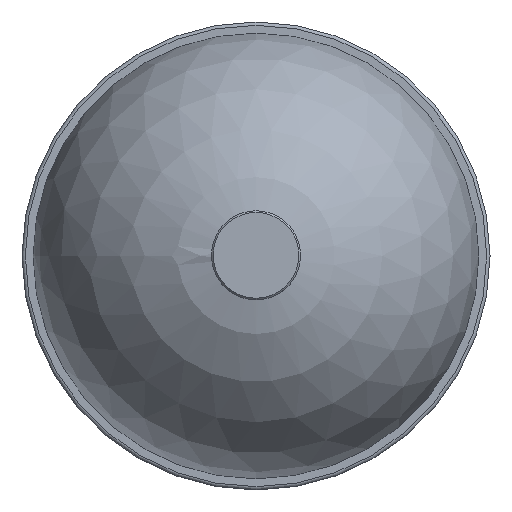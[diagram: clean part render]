
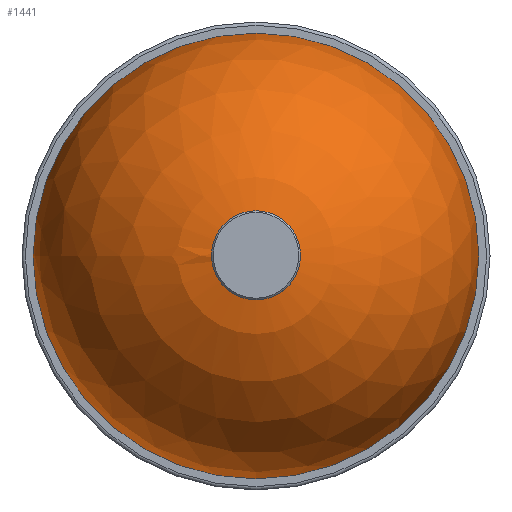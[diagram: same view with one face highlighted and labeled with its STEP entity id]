
A CAD part, top view. The second image highlights one B-rep face of the part: STEP entity #1441.
In plain terms, the highlighted spherical face has radius 40 mm.
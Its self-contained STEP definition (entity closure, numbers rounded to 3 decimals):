
#22=SPHERICAL_SURFACE('',#3386,40.);
#169=CIRCLE('',#3387,40.);
#170=CIRCLE('',#3388,4.7);
#390=EDGE_CURVE('',#1252,#1252,#169,.F.);
#391=EDGE_CURVE('',#1253,#1253,#170,.T.);
#560=ORIENTED_EDGE('',*,*,#390,.F.);
#561=ORIENTED_EDGE('',*,*,#391,.T.);
#674=EDGE_LOOP('',(#560));
#675=EDGE_LOOP('',(#561));
#1252=VERTEX_POINT('',#2965);
#1253=VERTEX_POINT('',#2967);
#1352=FACE_BOUND('',#674,.T.);
#1353=FACE_BOUND('',#675,.T.);
#1441=ADVANCED_FACE('',(#1352,#1353),#22,.T.);
#2964=CARTESIAN_POINT('',(13.564,16.021,58.568));
#2965=CARTESIAN_POINT('',(53.564,16.021,58.568));
#2966=CARTESIAN_POINT('',(13.564,16.021,58.568));
#2967=CARTESIAN_POINT('',(8.864,16.021,98.291));
#2968=CARTESIAN_POINT('',(13.564,16.021,98.291));
#3228=DIRECTION('',(0.,0.,-1.));
#3229=DIRECTION('',(-0.98,0.201,0.));
#3230=DIRECTION('',(0.,0.,1.));
#3231=DIRECTION('',(1.,0.,0.));
#3232=DIRECTION('',(0.,0.,-1.));
#3233=DIRECTION('',(-1.,0.,0.));
#3386=AXIS2_PLACEMENT_3D('',#2964,#3228,#3229);
#3387=AXIS2_PLACEMENT_3D('',#2966,#3230,#3231);
#3388=AXIS2_PLACEMENT_3D('',#2968,#3232,#3233);
